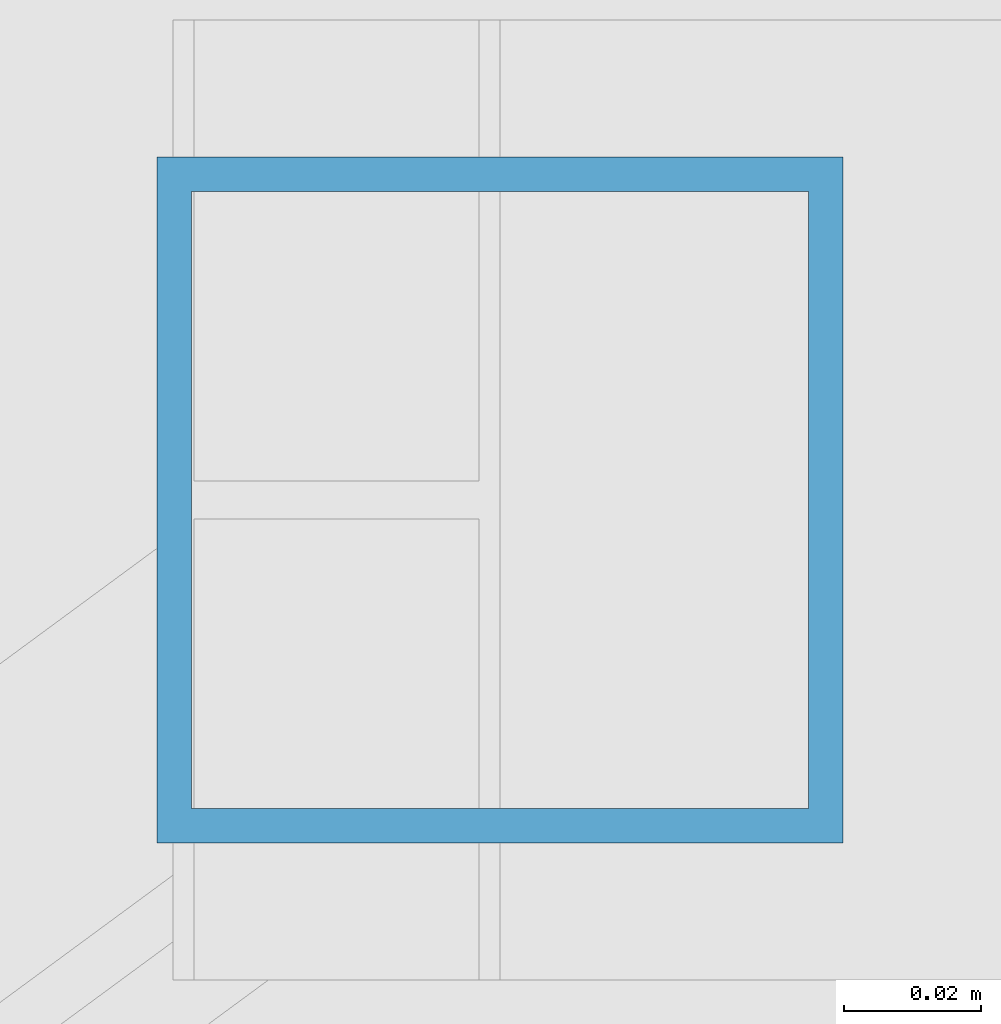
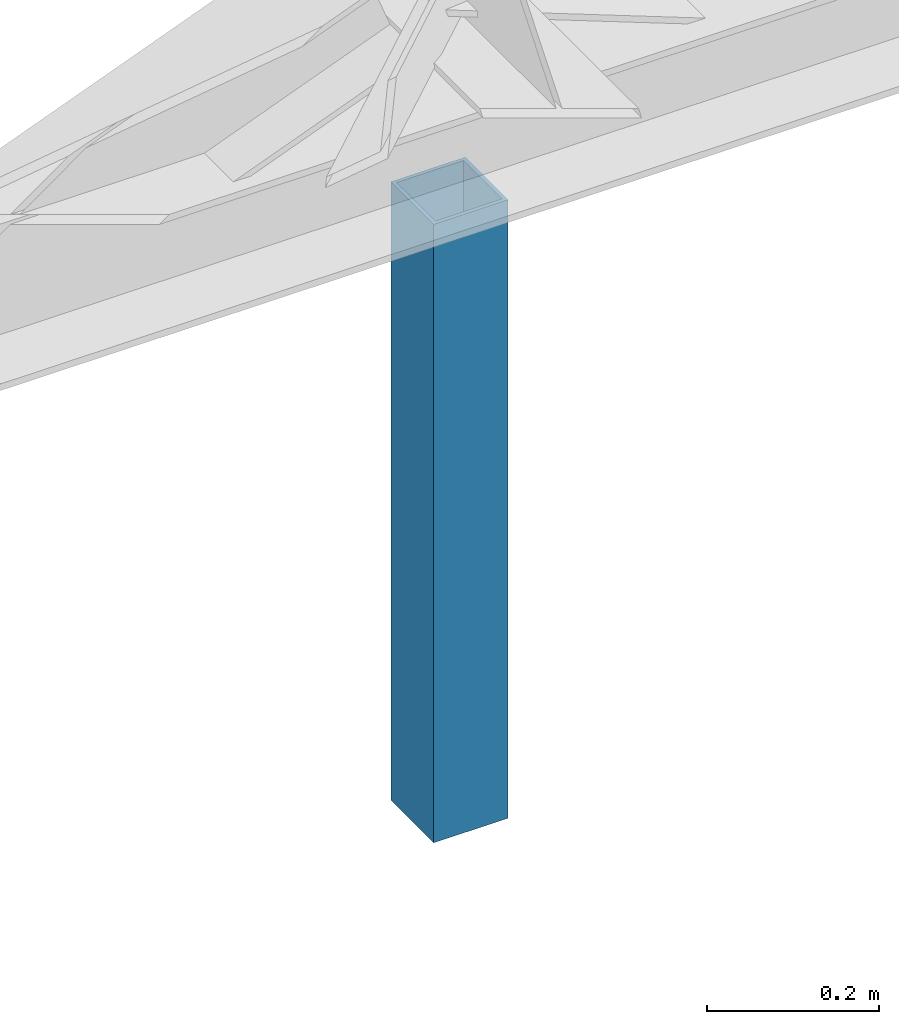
# One storey, part 3 of 10: 1 column.
"""IFC2X3 building model written with IfcOpenShell, lengths in millimetres."""

from ifc_helpers import new_model, entity, si_unit, converted_unit, derived_unit, direction, frame, origin, place, context, subcontext, project, spatial, polyline, outline, extrude, source, transform, mapped, material, type_object, type_shapes, element, save


model = new_model("IFC2X3")

# Units and contexts
model_context = context("Model", 3, precision=0.01, world=origin(), true_north=direction((6.123031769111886e-17, 1.0)))
body_context = subcontext(model_context, "Body", "Model", "MODEL_VIEW")
ifc_project = project(units=[si_unit("LENGTHUNIT", "METRE", prefix="MILLI"), si_unit("AREAUNIT", "SQUARE_METRE", prefix="MILLI"), si_unit("VOLUMEUNIT", "CUBIC_METRE"), converted_unit("PLANEANGLEUNIT", "DEGREE", entity("IfcPlaneAngleMeasure", 0.017453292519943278), si_unit("PLANEANGLEUNIT", "RADIAN"), dimensions=[0, 0, 0, 0, 0, 0, 0]), si_unit("MASSUNIT", "GRAM", prefix="KILO"), derived_unit("MASSDENSITYUNIT", [(si_unit("MASSUNIT", "GRAM", prefix="KILO"), 1), (si_unit("LENGTHUNIT", "METRE"), -3)]), derived_unit("IONCONCENTRATIONUNIT", [(si_unit("MASSUNIT", "GRAM", prefix="KILO"), 1), (si_unit("LENGTHUNIT", "METRE"), -3)]), derived_unit("MOMENTOFINERTIAUNIT", [(si_unit("LENGTHUNIT", "METRE"), 4)]), si_unit("TIMEUNIT", "SECOND"), si_unit("FREQUENCYUNIT", "HERTZ"), si_unit("THERMODYNAMICTEMPERATUREUNIT", "DEGREE_CELSIUS"), derived_unit("THERMALTRANSMITTANCEUNIT", [(si_unit("MASSUNIT", "GRAM", prefix="KILO"), 1), (si_unit("THERMODYNAMICTEMPERATUREUNIT", "KELVIN"), -1), (si_unit("TIMEUNIT", "SECOND"), -3)]), derived_unit("THERMALCONDUCTANCEUNIT", [(si_unit("MASSUNIT", "GRAM", prefix="KILO"), 1), (si_unit("THERMODYNAMICTEMPERATUREUNIT", "KELVIN"), -1), (si_unit("TIMEUNIT", "SECOND"), -3), (si_unit("LENGTHUNIT", "METRE"), 1)]), derived_unit("VOLUMETRICFLOWRATEUNIT", [(si_unit("LENGTHUNIT", "METRE", prefix="DECI"), 3), (si_unit("TIMEUNIT", "SECOND"), -1)]), derived_unit("MASSFLOWRATEUNIT", [(si_unit("MASSUNIT", "GRAM", prefix="KILO"), 1), (si_unit("TIMEUNIT", "SECOND"), -1)]), derived_unit("ROTATIONALFREQUENCYUNIT", [(si_unit("TIMEUNIT", "SECOND"), -1)]), si_unit("ELECTRICCURRENTUNIT", "AMPERE"), si_unit("ELECTRICVOLTAGEUNIT", "VOLT"), si_unit("POWERUNIT", "WATT"), si_unit("FORCEUNIT", "NEWTON", prefix="KILO"), si_unit("ILLUMINANCEUNIT", "LUX"), si_unit("LUMINOUSFLUXUNIT", "LUMEN"), si_unit("LUMINOUSINTENSITYUNIT", "CANDELA"), si_unit("ENERGYUNIT", "JOULE"), derived_unit("USERDEFINED", [(si_unit("MASSUNIT", "GRAM", prefix="KILO"), -1), (si_unit("LENGTHUNIT", "METRE"), -2), (si_unit("TIMEUNIT", "SECOND"), 3), (si_unit("LUMINOUSFLUXUNIT", "LUMEN"), 1)]), derived_unit("USERDEFINED", [(si_unit("MASSUNIT", "GRAM", prefix="KILO"), 1), (si_unit("TIMEUNIT", "SECOND"), -3), (si_unit("LENGTHUNIT", "METRE"), 3), (si_unit("ELECTRICCURRENTUNIT", "AMPERE"), -2)]), derived_unit("SOUNDPOWERUNIT", [(si_unit("MASSUNIT", "GRAM", prefix="KILO"), 1), (si_unit("TIMEUNIT", "SECOND"), -3), (si_unit("LENGTHUNIT", "METRE"), 2)]), derived_unit("SOUNDPRESSUREUNIT", [(si_unit("MASSUNIT", "GRAM", prefix="KILO"), 1), (si_unit("LENGTHUNIT", "METRE"), -1), (si_unit("TIMEUNIT", "SECOND"), -2)]), derived_unit("LINEARVELOCITYUNIT", [(si_unit("LENGTHUNIT", "METRE"), 1), (si_unit("TIMEUNIT", "SECOND"), -1)]), si_unit("PRESSUREUNIT", "PASCAL"), derived_unit("USERDEFINED", [(si_unit("MASSUNIT", "GRAM", prefix="KILO"), 1), (si_unit("LENGTHUNIT", "METRE"), -2), (si_unit("TIMEUNIT", "SECOND"), -2)]), derived_unit("LINEARFORCEUNIT", [(si_unit("MASSUNIT", "GRAM", prefix="KILO"), 1), (si_unit("TIMEUNIT", "SECOND"), -2)]), derived_unit("PLANARFORCEUNIT", [(si_unit("MASSUNIT", "GRAM", prefix="KILO"), 1), (si_unit("LENGTHUNIT", "METRE"), -1), (si_unit("TIMEUNIT", "SECOND"), -2)]), derived_unit("SPECIFICHEATCAPACITYUNIT", [(si_unit("THERMODYNAMICTEMPERATUREUNIT", "KELVIN"), -1), (si_unit("LENGTHUNIT", "METRE"), 2), (si_unit("TIMEUNIT", "SECOND"), -2)]), derived_unit("HEATFLUXDENSITYUNIT", [(si_unit("MASSUNIT", "GRAM", prefix="KILO"), 1), (si_unit("TIMEUNIT", "SECOND"), -3)]), derived_unit("HEATINGVALUEUNIT", [(si_unit("LENGTHUNIT", "METRE"), 2), (si_unit("TIMEUNIT", "SECOND"), -2)]), derived_unit("VAPORPERMEABILITYUNIT", [(si_unit("LENGTHUNIT", "METRE"), -1), (si_unit("TIMEUNIT", "SECOND"), 1)]), derived_unit("DYNAMICVISCOSITYUNIT", [(si_unit("MASSUNIT", "GRAM", prefix="KILO"), 1), (si_unit("TIMEUNIT", "SECOND"), -1), (si_unit("LENGTHUNIT", "METRE"), -1)]), derived_unit("THERMALEXPANSIONCOEFFICIENTUNIT", [(si_unit("THERMODYNAMICTEMPERATUREUNIT", "KELVIN"), -1)]), derived_unit("MODULUSOFELASTICITYUNIT", [(si_unit("MASSUNIT", "GRAM", prefix="KILO"), 1), (si_unit("LENGTHUNIT", "METRE"), -1), (si_unit("TIMEUNIT", "SECOND"), -2)]), derived_unit("ISOTHERMALMOISTURECAPACITYUNIT", [(si_unit("MASSUNIT", "GRAM", prefix="KILO"), -1), (si_unit("LENGTHUNIT", "METRE"), 3)]), derived_unit("MOISTUREDIFFUSIVITYUNIT", [(si_unit("TIMEUNIT", "SECOND"), -1), (si_unit("LENGTHUNIT", "METRE"), 2)]), derived_unit("MASSPERLENGTHUNIT", [(si_unit("MASSUNIT", "GRAM", prefix="KILO"), 1), (si_unit("LENGTHUNIT", "METRE"), -1)]), derived_unit("THERMALRESISTANCEUNIT", [(si_unit("MASSUNIT", "GRAM", prefix="KILO"), -1), (si_unit("TIMEUNIT", "SECOND"), 3), (si_unit("THERMODYNAMICTEMPERATUREUNIT", "KELVIN"), 1)]), derived_unit("ACCELERATIONUNIT", [(si_unit("LENGTHUNIT", "METRE"), 1), (si_unit("TIMEUNIT", "SECOND"), -2)]), derived_unit("ANGULARVELOCITYUNIT", [(si_unit("TIMEUNIT", "SECOND"), -1), (si_unit("PLANEANGLEUNIT", "RADIAN"), 1)]), derived_unit("LINEARSTIFFNESSUNIT", [(si_unit("MASSUNIT", "GRAM", prefix="KILO"), 1), (si_unit("TIMEUNIT", "SECOND"), -2)]), derived_unit("WARPINGCONSTANTUNIT", [(si_unit("LENGTHUNIT", "METRE"), 6)]), derived_unit("LINEARMOMENTUNIT", [(si_unit("MASSUNIT", "GRAM", prefix="KILO"), 1), (si_unit("LENGTHUNIT", "METRE"), 1), (si_unit("TIMEUNIT", "SECOND"), -2)]), derived_unit("TORQUEUNIT", [(si_unit("MASSUNIT", "GRAM", prefix="KILO"), 1), (si_unit("LENGTHUNIT", "METRE"), 2), (si_unit("TIMEUNIT", "SECOND"), -2)])], contexts=[model_context])

# Site, building, storey
site_placement = place(None, origin())
site = spatial("IfcSite", under=ifc_project, at=site_placement, Name="Default", CompositionType="ELEMENT")
building_placement = place(site_placement, origin())
building = spatial("IfcBuilding", under=site, at=building_placement, CompositionType="ELEMENT")
storey_placement = place(building_placement, frame((0.0, 0.0, 11700.0)))
storey = spatial("IfcBuildingStorey", under=building, at=storey_placement, Name="V4 BK metselwerk", CompositionType="ELEMENT", Elevation=11699.999999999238)

# Column
ifc_material = material(Name="Metal - Steel - S275 J0H (standaard-kokers/buizen)")
column_type = type_object("IfcColumnType", Name="btk_staal - Koker:K100x100x5.0", PredefinedType="COLUMN", material=ifc_material)
shared_shape = source(origin(), body_context, "Body", "SweptSolid", [
    extrude(outline(polyline([(-50.0, -50.0), (50.0, -50.0), (50.0, 50.0), (-50.0, 50.0), (-50.0, -50.0)]), holes=[polyline([(-45.0, -45.0), (-45.0, 45.0), (45.0, 45.0), (45.0, -45.0), (-45.0, -45.0)])]), frame((10225.910156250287, 25344.605013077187, 10830.0), z_axis=(0.0, 0.0, 1.0), x_axis=(0.0, -1.0, 0.0)), (0.0, 0.0, 1.0), 879.0000000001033),
])
type_shapes(column_type, [shared_shape])
column_placement = place(storey_placement, frame((0.0, 0.0, -11700.0)))
element("IfcColumn", 1, at=column_placement, inside=storey, type_object=column_type, material=ifc_material, Name="btk_staal - Koker:K100x100x5.0", ObjectType="btk_staal - Koker:K100x100x5.0", context=body_context, shape_type="MappedRepresentation", body=[
    mapped(shared_shape, transform((0.0, 0.0, 0.0), scale=1.0)),
])

save(model, "model.ifc")
